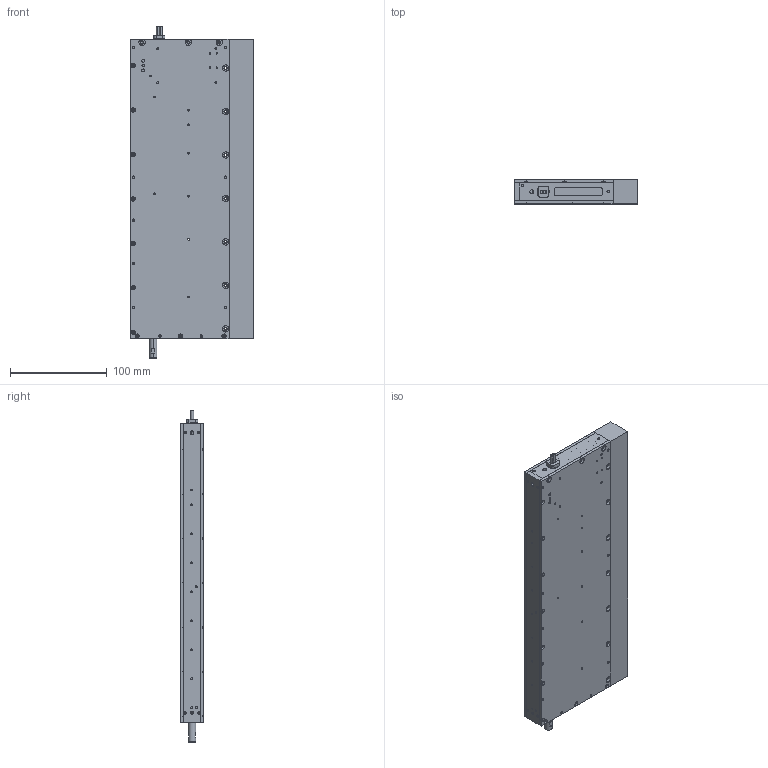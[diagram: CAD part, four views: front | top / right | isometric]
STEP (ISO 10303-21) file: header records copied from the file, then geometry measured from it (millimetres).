
FILE_DESCRIPTION (( 'STEP AP203' ), '1' );
FILE_NAME ('LBL25-150-3X-3_D.STEP', '2020-05-27T16:06:56', ( '' ), ( '' ), 'SwSTEP 2.0', 'SolidWorks 2018', '' );
FILE_SCHEMA (( 'CONFIG_CONTROL_DESIGN' ));
Length unit declared in the file: millimetre
Products named in the file (9): 110091-01_G; 230090-03; 140807-153; cable-g_b; 140807-152_C; 210101-150; LBL25-150-3X-3_D; 140806-151_A; 230091-151_C
Assembly tree (8 placements, depth 2):
  LBL25-150-3X-3_D
    cable-g_b
    210101-150
    230090-03
    110091-01_G
    140807-152_C
    140807-153
    140806-151_A
    230091-151_C
Bounding box: 126.6 x 24.8 x 343.65 mm (x, y, z)
Volume: 367635.8 mm3; surface area: 220536.4 mm2
Topology: 8 solids, 8 shells, 755 faces, 1883 edges, 1153 vertices
Faces by surface type: cylinder 459, cone 147, plane 141, torus 8
Entity records: 23571 total; most frequent: DIRECTION 4322, CARTESIAN_POINT 3713, ORIENTED_EDGE 3588, EDGE_CURVE 1794, AXIS2_PLACEMENT_3D 1762, VERTEX_POINT 1153, EDGE_LOOP 1093, CIRCLE 996
